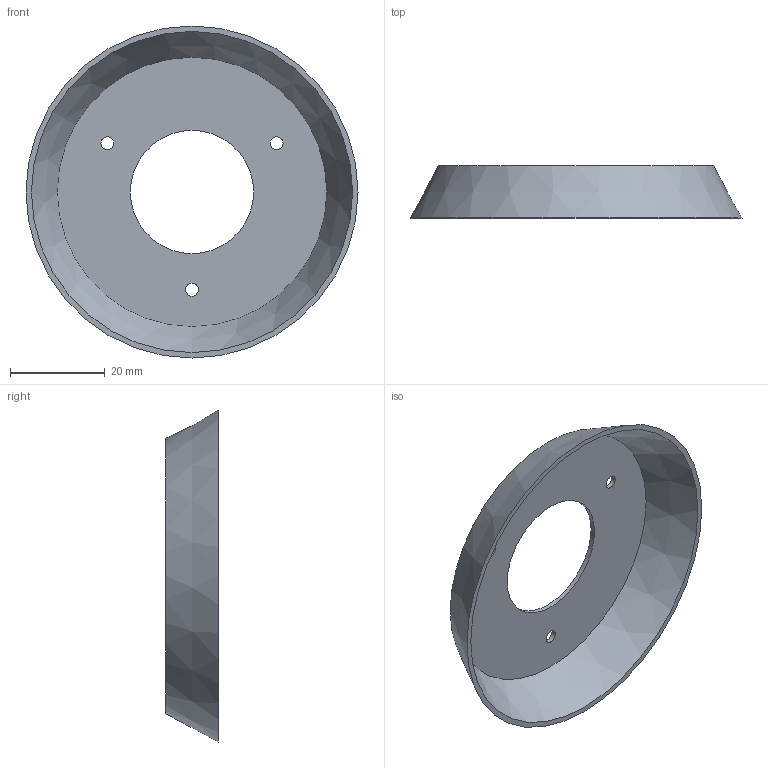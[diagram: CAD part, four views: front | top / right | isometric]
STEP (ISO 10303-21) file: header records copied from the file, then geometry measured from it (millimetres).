
FILE_DESCRIPTION( ( 'STEP AP203' ), '1' );
FILE_NAME( 'C:/Temp/Ganter_Step_05_03_2020/data/1_4/gn_526_1/gn_526_1_s/Scale ring GN 526.1-70-S.stp', '2020-03-05T10:48:55', ( 'License CC BY-ND 4.0' ), ( 'CADENAS' ), ' ', 'PARTsolutions', ' ' );
FILE_SCHEMA( ( 'CONFIG_CONTROL_DESIGN' ) );
Length unit declared in the file: millimetre
Products named in the file (1): _Scale ring GN 526.1-70-S
Bounding box: 70 x 11 x 70 mm (x, y, z)
Volume: 4413 mm3; surface area: 9182 mm2
Topology: 1 solids, 1 shells, 9 faces, 21 edges, 15 vertices
Faces by surface type: cylinder 4, plane 3, cone 2
Full cylindrical faces by diameter (mm): 2.7 x3, 26 x1
Entity records: 274 total; most frequent: DIRECTION 44, CARTESIAN_POINT 34, EDGE_LOOP 24, ORIENTED_EDGE 24, AXIS2_PLACEMENT_3D 22, FACE_OUTER_BOUND 13, EDGE_CURVE 12, VERTEX_POINT 12
